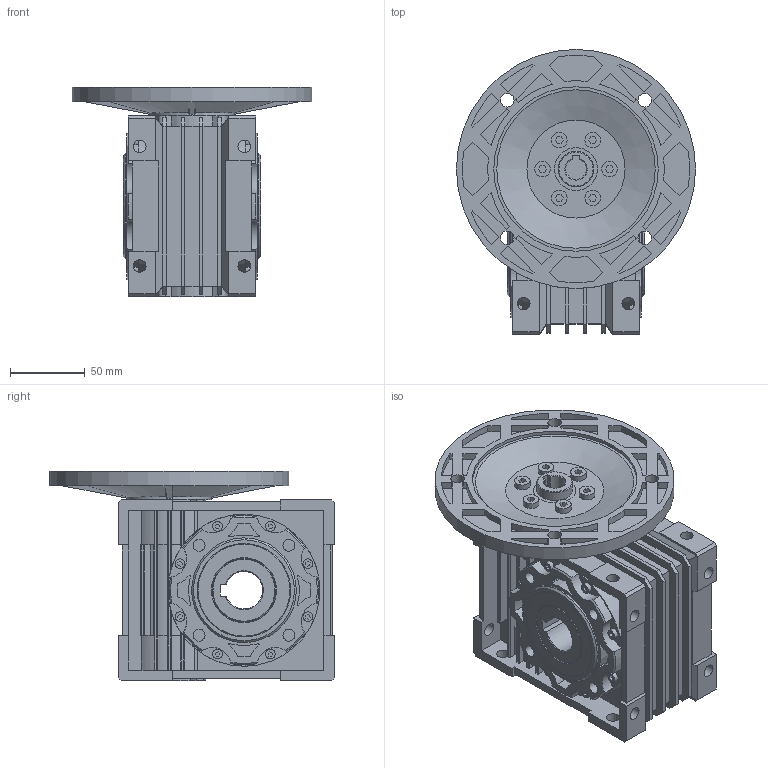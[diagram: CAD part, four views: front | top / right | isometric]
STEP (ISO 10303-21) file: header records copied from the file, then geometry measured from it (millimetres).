
FILE_DESCRIPTION(/* description */ (''),/* implementation_level */ '2;1');
FILE_NAME(/* name */ 'Z:\동력 3D 파일\PCMRV050_71B5_3D.stp',/* time_stamp */ '2021-12-01T16:40:52+09:00',/* author */ ('jaebok'),/* organization */ (''),/* preprocessor_version */ 'ST-DEVELOPER v18.1',/* originating_system */ 'Autodesk Inventor 2022',/* authorisation */ '');
FILE_SCHEMA (('AUTOMOTIVE_DESIGN { 1 0 10303 214 3 1 1 }'));
Length unit declared in the file: millimetre
Products named in the file (1): 부품44
Bounding box: 160 x 190.5 x 140 mm (x, y, z)
Volume: 1299389.6 mm3; surface area: 197560.2 mm2
Topology: 1 solids, 2 shells, 880 faces, 2287 edges, 1505 vertices
Faces by surface type: plane 570, cylinder 277, cone 33
Full cylindrical faces by diameter (mm): 3.188 x8, 6.5 x16, 8 x8, 8.5 x16, 9 x4, 10.448 x6, 23.8 x1, 28.56 x1, 41.5 x2, 42.5 x2, 56.5 x1, 62.5 x2, 70 x2, 101.6 x2, 110 x1, 160 x1
Entity records: 28253 total; most frequent: CARTESIAN_POINT 5121, DIRECTION 4625, ORIENTED_EDGE 4574, EDGE_CURVE 2287, LINE 1563, VECTOR 1563, AXIS2_PLACEMENT_3D 1531, VERTEX_POINT 1505
